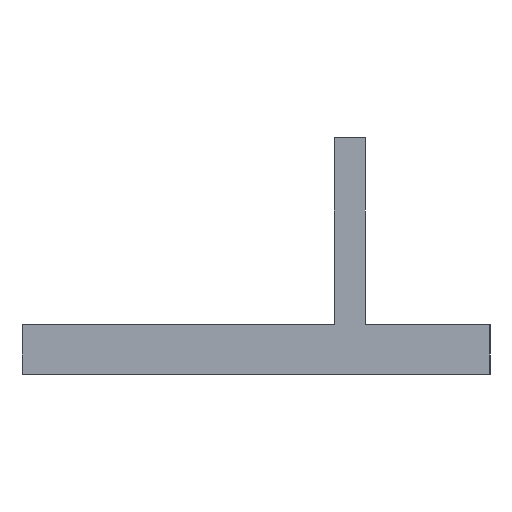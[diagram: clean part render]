
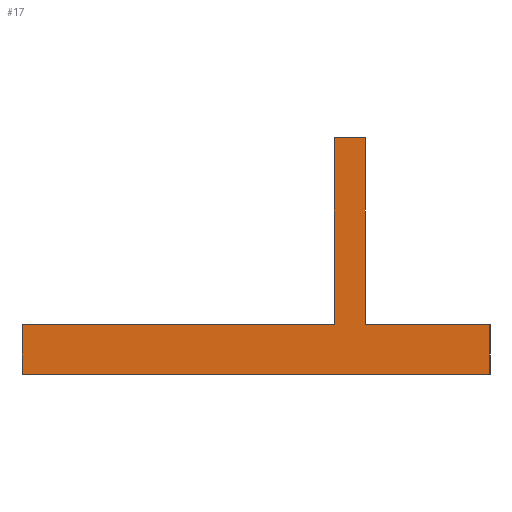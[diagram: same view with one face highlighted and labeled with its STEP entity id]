
A CAD part, left-side view. The second image highlights one B-rep face of the part: STEP entity #17.
In plain terms, the highlighted planar face has unit normal (-1, 0, 0).
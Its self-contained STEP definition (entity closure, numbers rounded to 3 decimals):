
#17 = ADVANCED_FACE('',(#18),#32,.F.);
#18 = FACE_BOUND('',#19,.F.);
#19 = EDGE_LOOP('',(#20,#55,#83,#111,#139,#167,#195,#218));
#20 = ORIENTED_EDGE('',*,*,#21,.F.);
#21 = EDGE_CURVE('',#22,#24,#26,.T.);
#22 = VERTEX_POINT('',#23);
#23 = CARTESIAN_POINT('',(0.,75.15,0.));
#24 = VERTEX_POINT('',#25);
#25 = CARTESIAN_POINT('',(0.,0.,0.));
#26 = SURFACE_CURVE('',#27,(#31,#43),.PCURVE_S1.);
#27 = LINE('',#28,#29);
#28 = CARTESIAN_POINT('',(0.,75.15,0.));
#29 = VECTOR('',#30,1.);
#30 = DIRECTION('',(0.,-1.,0.));
#31 = PCURVE('',#32,#37);
#32 = PLANE('',#33);
#33 = AXIS2_PLACEMENT_3D('',#34,#35,#36);
#34 = CARTESIAN_POINT('',(0.,75.15,8.));
#35 = DIRECTION('',(1.,0.,0.));
#36 = DIRECTION('',(0.,0.,-1.));
#37 = DEFINITIONAL_REPRESENTATION('',(#38),#42);
#38 = LINE('',#39,#40);
#39 = CARTESIAN_POINT('',(8.,0.));
#40 = VECTOR('',#41,1.);
#41 = DIRECTION('',(0.,-1.));
#42 = ( GEOMETRIC_REPRESENTATION_CONTEXT(2) 
PARAMETRIC_REPRESENTATION_CONTEXT() REPRESENTATION_CONTEXT('2D SPACE',''
  ) );
#43 = PCURVE('',#44,#49);
#44 = PLANE('',#45);
#45 = AXIS2_PLACEMENT_3D('',#46,#47,#48);
#46 = CARTESIAN_POINT('',(0.,75.15,0.));
#47 = DIRECTION('',(0.,0.,-1.));
#48 = DIRECTION('',(1.,0.,0.));
#49 = DEFINITIONAL_REPRESENTATION('',(#50),#54);
#50 = LINE('',#51,#52);
#51 = CARTESIAN_POINT('',(0.,0.));
#52 = VECTOR('',#53,1.);
#53 = DIRECTION('',(0.,1.));
#54 = ( GEOMETRIC_REPRESENTATION_CONTEXT(2) 
PARAMETRIC_REPRESENTATION_CONTEXT() REPRESENTATION_CONTEXT('2D SPACE',''
  ) );
#55 = ORIENTED_EDGE('',*,*,#56,.F.);
#56 = EDGE_CURVE('',#57,#22,#59,.T.);
#57 = VERTEX_POINT('',#58);
#58 = CARTESIAN_POINT('',(0.,75.15,8.));
#59 = SURFACE_CURVE('',#60,(#64,#71),.PCURVE_S1.);
#60 = LINE('',#61,#62);
#61 = CARTESIAN_POINT('',(0.,75.15,8.));
#62 = VECTOR('',#63,1.);
#63 = DIRECTION('',(0.,0.,-1.));
#64 = PCURVE('',#32,#65);
#65 = DEFINITIONAL_REPRESENTATION('',(#66),#70);
#66 = LINE('',#67,#68);
#67 = CARTESIAN_POINT('',(0.,0.));
#68 = VECTOR('',#69,1.);
#69 = DIRECTION('',(1.,0.));
#70 = ( GEOMETRIC_REPRESENTATION_CONTEXT(2) 
PARAMETRIC_REPRESENTATION_CONTEXT() REPRESENTATION_CONTEXT('2D SPACE',''
  ) );
#71 = PCURVE('',#72,#77);
#72 = PLANE('',#73);
#73 = AXIS2_PLACEMENT_3D('',#74,#75,#76);
#74 = CARTESIAN_POINT('',(0.,75.15,8.));
#75 = DIRECTION('',(0.,-1.,0.));
#76 = DIRECTION('',(0.,0.,-1.));
#77 = DEFINITIONAL_REPRESENTATION('',(#78),#82);
#78 = LINE('',#79,#80);
#79 = CARTESIAN_POINT('',(0.,0.));
#80 = VECTOR('',#81,1.);
#81 = DIRECTION('',(1.,0.));
#82 = ( GEOMETRIC_REPRESENTATION_CONTEXT(2) 
PARAMETRIC_REPRESENTATION_CONTEXT() REPRESENTATION_CONTEXT('2D SPACE',''
  ) );
#83 = ORIENTED_EDGE('',*,*,#84,.T.);
#84 = EDGE_CURVE('',#57,#85,#87,.T.);
#85 = VERTEX_POINT('',#86);
#86 = CARTESIAN_POINT('',(0.,25.,8.));
#87 = SURFACE_CURVE('',#88,(#92,#99),.PCURVE_S1.);
#88 = LINE('',#89,#90);
#89 = CARTESIAN_POINT('',(0.,75.15,8.));
#90 = VECTOR('',#91,1.);
#91 = DIRECTION('',(0.,-1.,0.));
#92 = PCURVE('',#32,#93);
#93 = DEFINITIONAL_REPRESENTATION('',(#94),#98);
#94 = LINE('',#95,#96);
#95 = CARTESIAN_POINT('',(0.,0.));
#96 = VECTOR('',#97,1.);
#97 = DIRECTION('',(0.,-1.));
#98 = ( GEOMETRIC_REPRESENTATION_CONTEXT(2) 
PARAMETRIC_REPRESENTATION_CONTEXT() REPRESENTATION_CONTEXT('2D SPACE',''
  ) );
#99 = PCURVE('',#100,#105);
#100 = PLANE('',#101);
#101 = AXIS2_PLACEMENT_3D('',#102,#103,#104);
#102 = CARTESIAN_POINT('',(0.,75.15,8.));
#103 = DIRECTION('',(0.,0.,-1.));
#104 = DIRECTION('',(1.,0.,0.));
#105 = DEFINITIONAL_REPRESENTATION('',(#106),#110);
#106 = LINE('',#107,#108);
#107 = CARTESIAN_POINT('',(0.,0.));
#108 = VECTOR('',#109,1.);
#109 = DIRECTION('',(0.,1.));
#110 = ( GEOMETRIC_REPRESENTATION_CONTEXT(2) 
PARAMETRIC_REPRESENTATION_CONTEXT() REPRESENTATION_CONTEXT('2D SPACE',''
  ) );
#111 = ORIENTED_EDGE('',*,*,#112,.F.);
#112 = EDGE_CURVE('',#113,#85,#115,.T.);
#113 = VERTEX_POINT('',#114);
#114 = CARTESIAN_POINT('',(0.,25.,38.));
#115 = SURFACE_CURVE('',#116,(#120,#127),.PCURVE_S1.);
#116 = LINE('',#117,#118);
#117 = CARTESIAN_POINT('',(0.,25.,38.));
#118 = VECTOR('',#119,1.);
#119 = DIRECTION('',(0.,0.,-1.));
#120 = PCURVE('',#32,#121);
#121 = DEFINITIONAL_REPRESENTATION('',(#122),#126);
#122 = LINE('',#123,#124);
#123 = CARTESIAN_POINT('',(-30.,-50.15));
#124 = VECTOR('',#125,1.);
#125 = DIRECTION('',(1.,0.));
#126 = ( GEOMETRIC_REPRESENTATION_CONTEXT(2) 
PARAMETRIC_REPRESENTATION_CONTEXT() REPRESENTATION_CONTEXT('2D SPACE',''
  ) );
#127 = PCURVE('',#128,#133);
#128 = PLANE('',#129);
#129 = AXIS2_PLACEMENT_3D('',#130,#131,#132);
#130 = CARTESIAN_POINT('',(0.,25.,38.));
#131 = DIRECTION('',(0.,-1.,0.));
#132 = DIRECTION('',(0.,0.,-1.));
#133 = DEFINITIONAL_REPRESENTATION('',(#134),#138);
#134 = LINE('',#135,#136);
#135 = CARTESIAN_POINT('',(0.,0.));
#136 = VECTOR('',#137,1.);
#137 = DIRECTION('',(1.,0.));
#138 = ( GEOMETRIC_REPRESENTATION_CONTEXT(2) 
PARAMETRIC_REPRESENTATION_CONTEXT() REPRESENTATION_CONTEXT('2D SPACE',''
  ) );
#139 = ORIENTED_EDGE('',*,*,#140,.T.);
#140 = EDGE_CURVE('',#113,#141,#143,.T.);
#141 = VERTEX_POINT('',#142);
#142 = CARTESIAN_POINT('',(0.,20.,38.));
#143 = SURFACE_CURVE('',#144,(#148,#155),.PCURVE_S1.);
#144 = LINE('',#145,#146);
#145 = CARTESIAN_POINT('',(0.,25.,38.));
#146 = VECTOR('',#147,1.);
#147 = DIRECTION('',(0.,-1.,0.));
#148 = PCURVE('',#32,#149);
#149 = DEFINITIONAL_REPRESENTATION('',(#150),#154);
#150 = LINE('',#151,#152);
#151 = CARTESIAN_POINT('',(-30.,-50.15));
#152 = VECTOR('',#153,1.);
#153 = DIRECTION('',(0.,-1.));
#154 = ( GEOMETRIC_REPRESENTATION_CONTEXT(2) 
PARAMETRIC_REPRESENTATION_CONTEXT() REPRESENTATION_CONTEXT('2D SPACE',''
  ) );
#155 = PCURVE('',#156,#161);
#156 = PLANE('',#157);
#157 = AXIS2_PLACEMENT_3D('',#158,#159,#160);
#158 = CARTESIAN_POINT('',(0.,25.,38.));
#159 = DIRECTION('',(0.,0.,-1.));
#160 = DIRECTION('',(1.,0.,0.));
#161 = DEFINITIONAL_REPRESENTATION('',(#162),#166);
#162 = LINE('',#163,#164);
#163 = CARTESIAN_POINT('',(0.,0.));
#164 = VECTOR('',#165,1.);
#165 = DIRECTION('',(0.,1.));
#166 = ( GEOMETRIC_REPRESENTATION_CONTEXT(2) 
PARAMETRIC_REPRESENTATION_CONTEXT() REPRESENTATION_CONTEXT('2D SPACE',''
  ) );
#167 = ORIENTED_EDGE('',*,*,#168,.T.);
#168 = EDGE_CURVE('',#141,#169,#171,.T.);
#169 = VERTEX_POINT('',#170);
#170 = CARTESIAN_POINT('',(0.,20.,8.));
#171 = SURFACE_CURVE('',#172,(#176,#183),.PCURVE_S1.);
#172 = LINE('',#173,#174);
#173 = CARTESIAN_POINT('',(0.,20.,38.));
#174 = VECTOR('',#175,1.);
#175 = DIRECTION('',(0.,0.,-1.));
#176 = PCURVE('',#32,#177);
#177 = DEFINITIONAL_REPRESENTATION('',(#178),#182);
#178 = LINE('',#179,#180);
#179 = CARTESIAN_POINT('',(-30.,-55.15));
#180 = VECTOR('',#181,1.);
#181 = DIRECTION('',(1.,0.));
#182 = ( GEOMETRIC_REPRESENTATION_CONTEXT(2) 
PARAMETRIC_REPRESENTATION_CONTEXT() REPRESENTATION_CONTEXT('2D SPACE',''
  ) );
#183 = PCURVE('',#184,#189);
#184 = PLANE('',#185);
#185 = AXIS2_PLACEMENT_3D('',#186,#187,#188);
#186 = CARTESIAN_POINT('',(0.,20.,38.));
#187 = DIRECTION('',(0.,-1.,0.));
#188 = DIRECTION('',(0.,0.,-1.));
#189 = DEFINITIONAL_REPRESENTATION('',(#190),#194);
#190 = LINE('',#191,#192);
#191 = CARTESIAN_POINT('',(0.,0.));
#192 = VECTOR('',#193,1.);
#193 = DIRECTION('',(1.,0.));
#194 = ( GEOMETRIC_REPRESENTATION_CONTEXT(2) 
PARAMETRIC_REPRESENTATION_CONTEXT() REPRESENTATION_CONTEXT('2D SPACE',''
  ) );
#195 = ORIENTED_EDGE('',*,*,#196,.T.);
#196 = EDGE_CURVE('',#169,#197,#199,.T.);
#197 = VERTEX_POINT('',#198);
#198 = CARTESIAN_POINT('',(0.,0.,8.));
#199 = SURFACE_CURVE('',#200,(#204,#211),.PCURVE_S1.);
#200 = LINE('',#201,#202);
#201 = CARTESIAN_POINT('',(0.,75.15,8.));
#202 = VECTOR('',#203,1.);
#203 = DIRECTION('',(0.,-1.,0.));
#204 = PCURVE('',#32,#205);
#205 = DEFINITIONAL_REPRESENTATION('',(#206),#210);
#206 = LINE('',#207,#208);
#207 = CARTESIAN_POINT('',(0.,0.));
#208 = VECTOR('',#209,1.);
#209 = DIRECTION('',(0.,-1.));
#210 = ( GEOMETRIC_REPRESENTATION_CONTEXT(2) 
PARAMETRIC_REPRESENTATION_CONTEXT() REPRESENTATION_CONTEXT('2D SPACE',''
  ) );
#211 = PCURVE('',#100,#212);
#212 = DEFINITIONAL_REPRESENTATION('',(#213),#217);
#213 = LINE('',#214,#215);
#214 = CARTESIAN_POINT('',(0.,0.));
#215 = VECTOR('',#216,1.);
#216 = DIRECTION('',(0.,1.));
#217 = ( GEOMETRIC_REPRESENTATION_CONTEXT(2) 
PARAMETRIC_REPRESENTATION_CONTEXT() REPRESENTATION_CONTEXT('2D SPACE',''
  ) );
#218 = ORIENTED_EDGE('',*,*,#219,.T.);
#219 = EDGE_CURVE('',#197,#24,#220,.T.);
#220 = SURFACE_CURVE('',#221,(#225,#232),.PCURVE_S1.);
#221 = LINE('',#222,#223);
#222 = CARTESIAN_POINT('',(0.,0.,8.));
#223 = VECTOR('',#224,1.);
#224 = DIRECTION('',(0.,0.,-1.));
#225 = PCURVE('',#32,#226);
#226 = DEFINITIONAL_REPRESENTATION('',(#227),#231);
#227 = LINE('',#228,#229);
#228 = CARTESIAN_POINT('',(0.,-75.15));
#229 = VECTOR('',#230,1.);
#230 = DIRECTION('',(1.,0.));
#231 = ( GEOMETRIC_REPRESENTATION_CONTEXT(2) 
PARAMETRIC_REPRESENTATION_CONTEXT() REPRESENTATION_CONTEXT('2D SPACE',''
  ) );
#232 = PCURVE('',#233,#238);
#233 = PLANE('',#234);
#234 = AXIS2_PLACEMENT_3D('',#235,#236,#237);
#235 = CARTESIAN_POINT('',(0.,0.,8.));
#236 = DIRECTION('',(0.,-1.,0.));
#237 = DIRECTION('',(0.,0.,-1.));
#238 = DEFINITIONAL_REPRESENTATION('',(#239),#243);
#239 = LINE('',#240,#241);
#240 = CARTESIAN_POINT('',(0.,0.));
#241 = VECTOR('',#242,1.);
#242 = DIRECTION('',(1.,0.));
#243 = ( GEOMETRIC_REPRESENTATION_CONTEXT(2) 
PARAMETRIC_REPRESENTATION_CONTEXT() REPRESENTATION_CONTEXT('2D SPACE',''
  ) );
